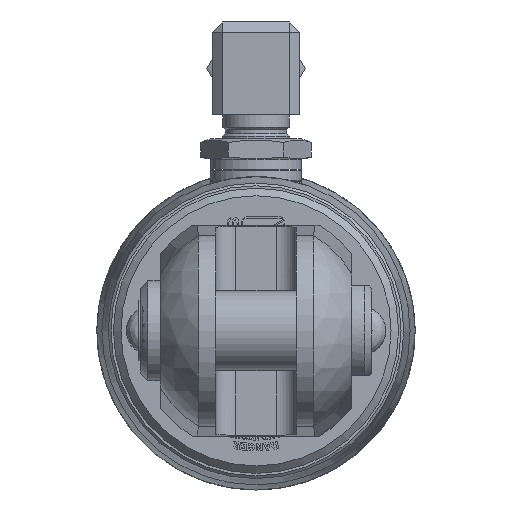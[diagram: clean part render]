
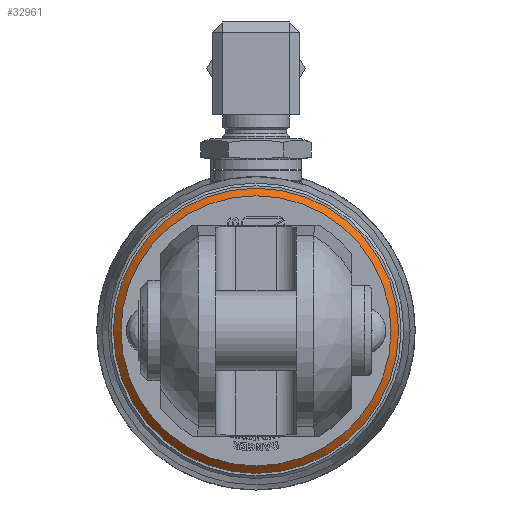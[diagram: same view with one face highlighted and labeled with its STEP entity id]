
A CAD part, left-side view. The second image highlights one B-rep face of the part: STEP entity #32961.
In plain terms, the highlighted conical face has half-angle 45 degrees and reference radius 27.65 mm.
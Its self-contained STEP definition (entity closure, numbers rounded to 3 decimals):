
#849=CONICAL_SURFACE('',#35018,27.65,0.785);
#3075=CIRCLE('',#35017,28.4);
#3076=CIRCLE('',#35019,26.9);
#4593=LINE('',#44863,#7560);
#7560=VECTOR('',#37557,27.65);
#10475=FACE_OUTER_BOUND('',#12279,.T.);
#12279=EDGE_LOOP('',(#24501,#24502,#24503,#24504));
#15572=VERTEX_POINT('',#44857);
#15573=VERTEX_POINT('',#44861);
#18997=EDGE_CURVE('',#15572,#15572,#3075,.T.);
#18999=EDGE_CURVE('',#15573,#15573,#3076,.T.);
#19000=EDGE_CURVE('',#15573,#15572,#4593,.T.);
#24501=ORIENTED_EDGE('',*,*,#18999,.T.);
#24502=ORIENTED_EDGE('',*,*,#19000,.T.);
#24503=ORIENTED_EDGE('',*,*,#18997,.T.);
#24504=ORIENTED_EDGE('',*,*,#19000,.F.);
#32961=ADVANCED_FACE('',(#10475),#849,.T.);
#35017=AXIS2_PLACEMENT_3D('',#44858,#37550,#37551);
#35018=AXIS2_PLACEMENT_3D('',#44860,#37553,#37554);
#35019=AXIS2_PLACEMENT_3D('',#44862,#37555,#37556);
#37550=DIRECTION('center_axis',(-1.,0.,0.));
#37551=DIRECTION('ref_axis',(0.,0.,
1.));
#37553=DIRECTION('center_axis',(1.,0.,0.));
#37554=DIRECTION('ref_axis',(0.,0.,
1.));
#37555=DIRECTION('center_axis',(1.,0.,0.));
#37556=DIRECTION('ref_axis',(0.,0.,
1.));
#37557=DIRECTION('',(0.707,0.,-0.707));
#44857=CARTESIAN_POINT('',(-391.6,0.,-28.4));
#44858=CARTESIAN_POINT('Origin',(-391.6,0.,0.));
#44860=CARTESIAN_POINT('Origin',(-392.35,0.,0.));
#44861=CARTESIAN_POINT('',(-393.1,0.,-26.9));
#44862=CARTESIAN_POINT('Origin',(-393.1,0.,0.));
#44863=CARTESIAN_POINT('',(-392.35,0.,-27.65));
